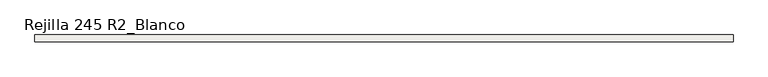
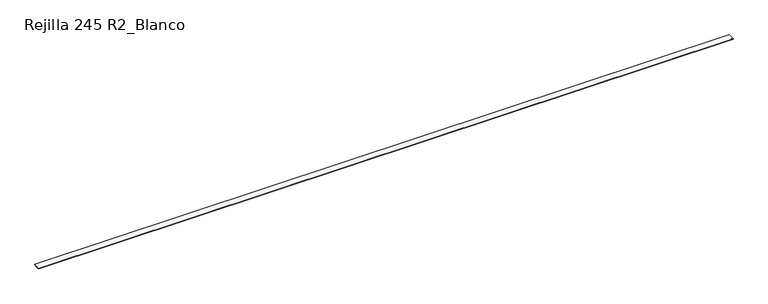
"""IFC4 building model written with IfcOpenShell, lengths in millimetres: slab geometry, ROSA GRES_245 R2 : Rejilla 245 R2_Blanco."""

from ifc_helpers import new_model, si_unit, frame, origin, place, context, project, spatial, polyline, outline, extrude, source, transform, mapped, element, save


def rejilla_245_r2_blanco_9ac73279(model_context):
    return source(origin(), model_context, "Body", "SweptSolid", [
        extrude(outline(polyline([(-369.5908797, 206.3460936), (-411.8675475, 206.3460936), (-422.8675475, 195.3460936), (-561.3142119, 195.3460936), (-572.3142119, 206.3460936), (-614.5908797, 206.3460936), (-614.5908797, 228.3460936), (-369.5908797, 228.3460936), (-369.5908797, 206.3460936)])), frame((0.0, 0.0, 0.0), z_axis=(1.0, 0.0, 0.0), x_axis=(0.0, 1.0, 0.0)), (0.0, 0.0, 1.0), 25331.1909005),
    ])


if __name__ == "__main__":
    model = new_model("IFC4")
    model_context = context("Model", 3, world=origin())
    ifc_project = project(units=[si_unit("LENGTHUNIT", "METRE", prefix="MILLI")], contexts=[model_context])
    site = spatial("IfcSite", under=ifc_project)
    building = spatial("IfcBuilding", under=site)
    placement = place(None, origin())
    rejilla_245_r2_blanco_shape = rejilla_245_r2_blanco_9ac73279(model_context)
    element("IfcSlab", 1, ObjectType="ROSA GRES_245 R2 : Rejilla 245 R2_Blanco", at=placement, inside=building, context=model_context, shape_type="MappedRepresentation", body=[
        mapped(rejilla_245_r2_blanco_shape, transform((0.0, 0.0, 0.0), x_axis=(1.0, 0.0, 0.0), y_axis=(0.0, 1.0, 0.0), z_axis=(0.0, 0.0, 1.0))),
    ])
    save(model, "model.ifc")
